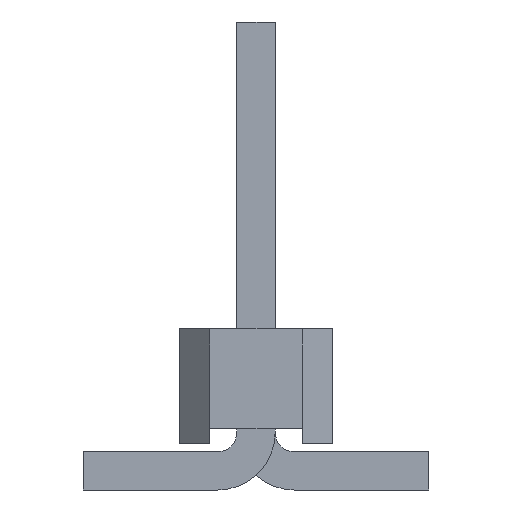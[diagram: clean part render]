
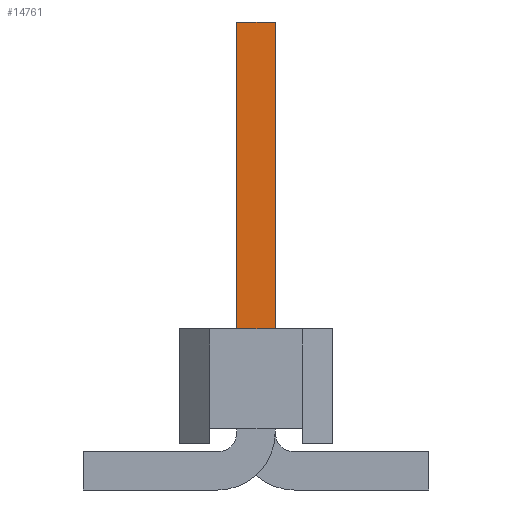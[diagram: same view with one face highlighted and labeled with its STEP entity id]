
A CAD part, left-side view. The second image highlights one B-rep face of the part: STEP entity #14761.
In plain terms, the highlighted planar face has unit normal (-1, 0, 0).
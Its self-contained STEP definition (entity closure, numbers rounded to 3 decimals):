
#958=DIRECTION('',(0.,-1.,0.));
#959=VECTOR('',#958,0.5);
#960=CARTESIAN_POINT('',(-24.25,0.25,0.));
#961=LINE('',#960,#959);
#4228=DIRECTION('',(0.,0.,-1.));
#4229=VECTOR('',#4228,4.);
#4230=CARTESIAN_POINT('',(-24.25,0.25,4.));
#4231=LINE('',#4230,#4229);
#4232=DIRECTION('',(0.,1.,0.));
#4233=VECTOR('',#4232,0.5);
#4234=CARTESIAN_POINT('',(-24.25,-0.25,4.));
#4235=LINE('',#4234,#4233);
#4236=DIRECTION('',(0.,0.,1.));
#4237=VECTOR('',#4236,4.);
#4238=CARTESIAN_POINT('',(-24.25,-0.25,0.));
#4239=LINE('',#4238,#4237);
#7522=CARTESIAN_POINT('',(-24.25,-0.25,4.));
#7523=CARTESIAN_POINT('',(-24.25,0.25,4.));
#7524=VERTEX_POINT('',#7522);
#7525=VERTEX_POINT('',#7523);
#7534=CARTESIAN_POINT('',(-24.25,0.25,0.));
#7535=CARTESIAN_POINT('',(-24.25,-0.25,0.));
#7536=VERTEX_POINT('',#7534);
#7537=VERTEX_POINT('',#7535);
#14748=CARTESIAN_POINT('',(-24.25,0.,0.));
#14749=DIRECTION('',(-1.,0.,0.));
#14750=DIRECTION('',(0.,0.,1.));
#14751=AXIS2_PLACEMENT_3D('',#14748,#14749,#14750);
#14752=PLANE('',#14751);
#14753=ORIENTED_EDGE('',*,*,#9717,.F.);
#14755=ORIENTED_EDGE('',*,*,#14754,.F.);
#14757=ORIENTED_EDGE('',*,*,#14756,.F.);
#14758=ORIENTED_EDGE('',*,*,#14726,.F.);
#14759=EDGE_LOOP('',(#14753,#14755,#14757,#14758));
#14760=FACE_OUTER_BOUND('',#14759,.F.);
#9717=EDGE_CURVE('',#7536,#7537,#961,.T.);
#14726=EDGE_CURVE('',#7537,#7524,#4239,.T.);
#14754=EDGE_CURVE('',#7525,#7536,#4231,.T.);
#14756=EDGE_CURVE('',#7524,#7525,#4235,.T.);
#14761=ADVANCED_FACE('',(#14760),#14752,.T.);
